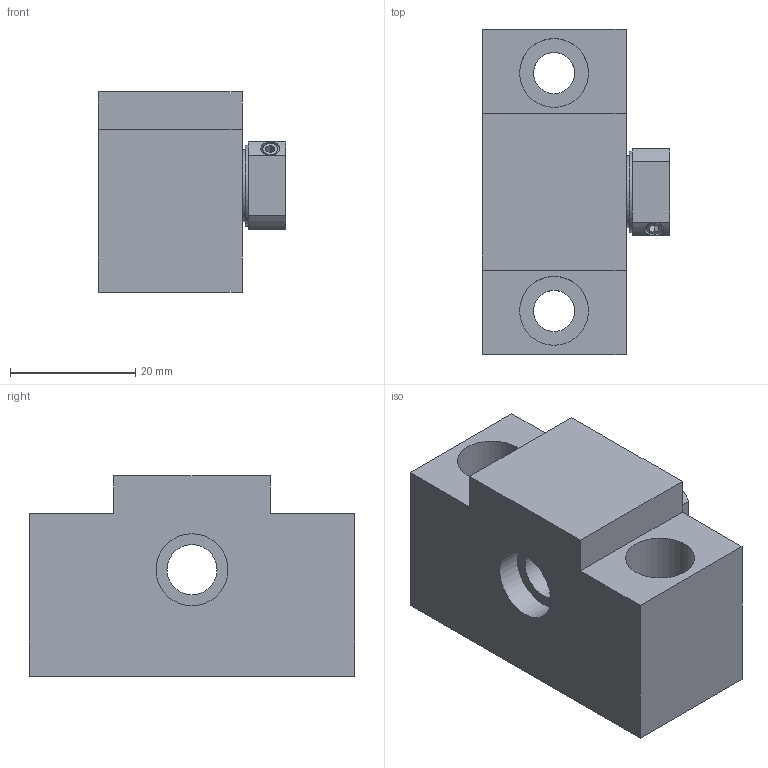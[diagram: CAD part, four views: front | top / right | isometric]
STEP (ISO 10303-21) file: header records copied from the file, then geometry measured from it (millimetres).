
FILE_DESCRIPTION((''),'2;1');
FILE_NAME('D:\製品 (図面)\カタログ用3D\ネジ関連\STEP形式\SUH\SUH8.stp','2010-06-02T14:50:00',('Tsuchiya'),(''),'Autodesk Inventor 10','Autodesk Inventor 10','');
FILE_SCHEMA(('AUTOMOTIVE_DESIGN { 1 0 10303 214 1 1 1 1 }'));
Length unit declared in the file: millimetre
Products named in the file (1): SUH8
Bounding box: 30 x 52 x 32 mm (x, y, z)
Volume: 30793.7 mm3; surface area: 9411.6 mm2
Topology: 1 solids, 1 shells, 46 faces, 102 edges, 68 vertices
Faces by surface type: plane 28, cylinder 11, bspline 6, cone 1
Full cylindrical faces by diameter (mm): 2.6 x2, 3 x1, 8 x1, 11.5 x2, 13 x1
Entity records: 1353 total; most frequent: CARTESIAN_POINT 333, DIRECTION 200, ORIENTED_EDGE 180, EDGE_CURVE 90, EDGE_LOOP 74, AXIS2_PLACEMENT_3D 71, VERTEX_POINT 68, VECTOR 58
